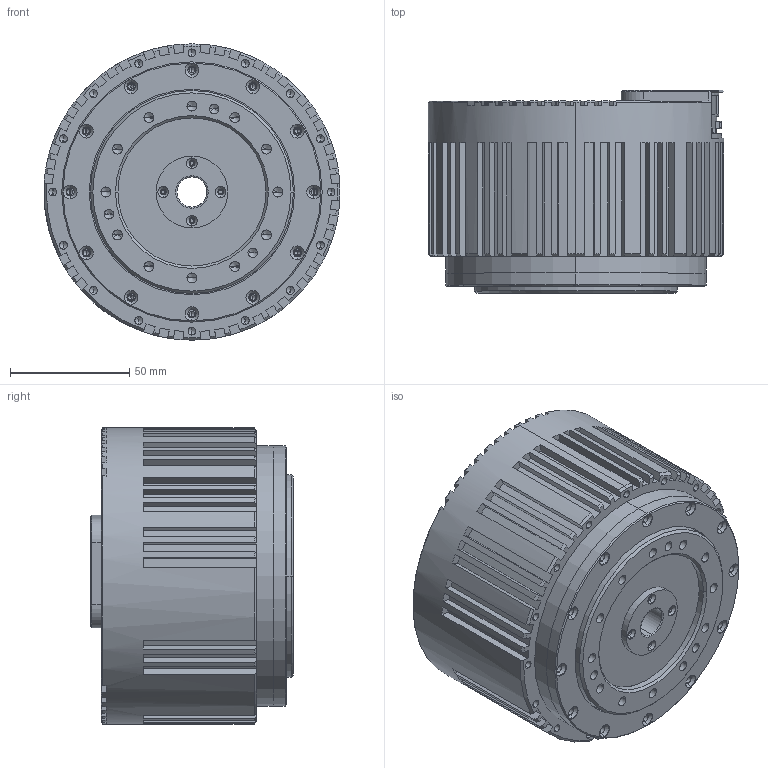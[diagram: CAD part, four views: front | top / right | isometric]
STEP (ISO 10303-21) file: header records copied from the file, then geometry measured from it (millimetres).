
FILE_DESCRIPTION (( 'STEP AP203' ), '1' );
FILE_NAME ('1MT.054.006.STEP', '2024-12-23T05:23:31', ( 'China' ), ( 'Microsoft' ), 'SwSTEP 2.0', 'SolidWorks 2020', '' );
FILE_SCHEMA (( 'CONFIG_CONTROL_DESIGN' ));
Length unit declared in the file: millimetre
Products named in the file (1): 1MT.054.006
Bounding box: 123.93 x 85 x 124 mm (x, y, z)
Volume: 800475.4 mm3; surface area: 148798.4 mm2
Topology: 2 solids, 12 shells, 1434 faces, 3778 edges, 2374 vertices
Faces by surface type: plane 643, cylinder 497, cone 248, bspline 42, torus 4
Entity records: 63184 total; most frequent: CARTESIAN_POINT 27495, DIRECTION 7575, ORIENTED_EDGE 7328, EDGE_CURVE 3664, AXIS2_PLACEMENT_3D 2738, VERTEX_POINT 2374, VECTOR 2099, LINE 2099
